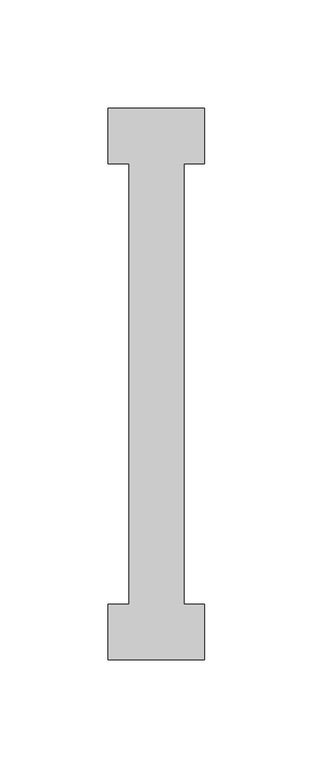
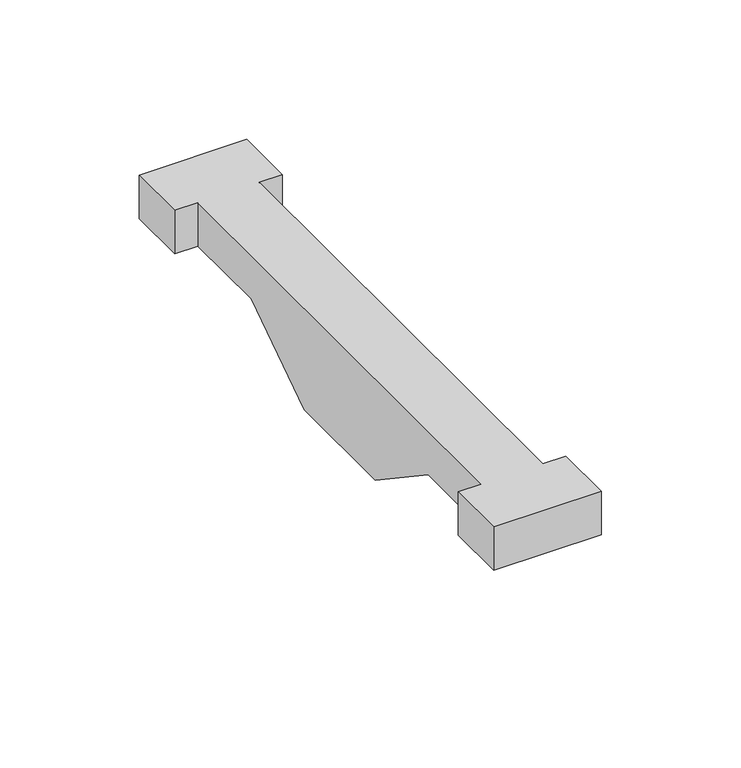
"""IFC4 building model written with IfcOpenShell, lengths in millimetres: furniture geometry, HermanMiller_ActionOffice_AO460-AO464_TransactionSurfaceSupport : Chg-of-Ht."""

from ifc_helpers import new_model, si_unit, origin, place, context, project, spatial, faceted_brep, source, transform, mapped, element, save


def furniture_218a3b14(model_context):
    return source(origin(), model_context, "Body", "Brep", [
        faceted_brep([(1527.175, 117.475, 981.0749985), (1527.175, 92.075, 981.0749985), (1527.175, 92.075, 1000.125), (1527.175, 117.475, 1000.125), (1527.175, -136.525, 1000.125), (1527.175, -111.124997, 1000.125), (1527.175, -111.124997, 981.0749985), (1527.175, -136.525, 981.0749985), (1571.625, 117.475, 981.0749985), (1571.625, 117.475, 1000.125), (1571.625, 92.075, 1000.125), (1571.625, 92.075, 981.0749985), (1571.625, -136.525, 1000.125), (1571.625, -136.525, 981.0749985), (1571.625, -111.124997, 981.0749985), (1571.625, -111.124997, 1000.125), (1562.0999996, 92.075, 981.0749985), (1562.0999996, 53.975, 981.0749985), (1536.6999989, 53.975, 981.0749985), (1536.6999989, 92.075, 981.0749985), (1536.6999989, 92.075, 1000.125), (1562.0999996, 92.075, 1000.125), (1536.6999989, -111.124997, 1000.125), (1562.0999996, -111.124997, 1000.125), (1536.6999989, -111.124997, 981.0749985), (1562.0999996, -111.124997, 981.0749985), (1536.6999989, -73.024997, 981.0749985), (1562.0999996, -73.024997, 981.0749985), (1536.6999989, 15.875, 955.675), (1536.6999989, -34.9250015, 955.675), (1562.0999996, -34.9250015, 955.675), (1562.0999996, 15.875, 955.675)], [[[0, 1, 2, 3]], [[4, 5, 6, 7]], [[8, 9, 10, 11]], [[12, 13, 14, 15]], [[1, 0, 8, 11, 16, 17, 18, 19]], [[2, 1, 19, 20]], [[11, 10, 21, 16]], [[3, 2, 20, 22, 5, 4, 12, 15, 23, 21, 10, 9]], [[0, 3, 9, 8]], [[6, 5, 22, 24]], [[15, 14, 25, 23]], [[7, 6, 24, 26, 27, 25, 14, 13]], [[4, 7, 13, 12]], [[22, 20, 19, 18, 28, 29, 26, 24]], [[25, 27, 30, 31, 17, 16, 21, 23]], [[28, 18, 17, 31]], [[29, 28, 31, 30]], [[26, 29, 30, 27]]]),
    ])


if __name__ == "__main__":
    model = new_model("IFC4")
    model_context = context("Model", 3, world=origin())
    ifc_project = project(units=[si_unit("LENGTHUNIT", "METRE", prefix="MILLI")], contexts=[model_context])
    site = spatial("IfcSite", under=ifc_project)
    building = spatial("IfcBuilding", under=site)
    placement = place(None, origin())
    furniture_shape = furniture_218a3b14(model_context)
    element("IfcFurniture", 1, ObjectType="HermanMiller_ActionOffice_AO460-AO464_TransactionSurfaceSupport : Chg-of-Ht", at=placement, inside=building, context=model_context, shape_type="MappedRepresentation", body=[
        mapped(furniture_shape, transform((0.0, 0.0, 0.0), x_axis=(1.0, 0.0, 0.0), y_axis=(0.0, 1.0, 0.0), z_axis=(0.0, 0.0, 1.0))),
    ])
    save(model, "model.ifc")
